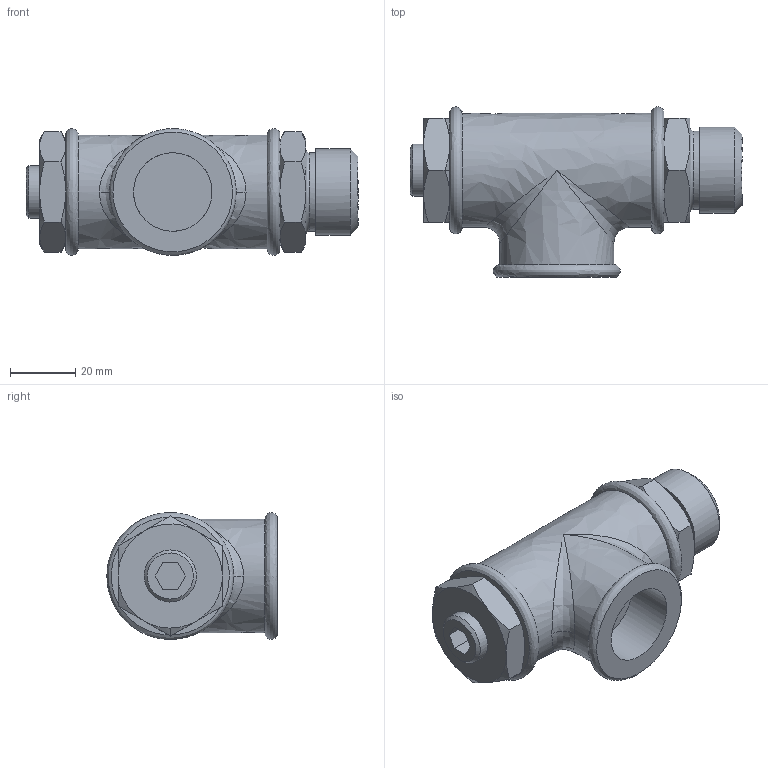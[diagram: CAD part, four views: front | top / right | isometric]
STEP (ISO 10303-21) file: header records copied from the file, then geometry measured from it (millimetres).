
FILE_DESCRIPTION((''),'2;1');
FILE_NAME('U:\Users\r.stiegele\12566400_EC330120.stp', '2013-10-11T15:08:02',('User'),('SDRC'),'I-DEAS Master Series 9','UNIX', 'Yes');
FILE_SCHEMA(('AUTOMOTIVE_DESIGN { 1 0 10303 214 1 1 1 1 }'));
Length unit declared in the file: millimetre
Products named in the file (1): 12566400(327299)
Bounding box: 102 x 52.28 x 38.95 mm (x, y, z)
Surface area: 17905.9 mm2 (no closed solid volume)
Topology: 0 solids, 1 shells, 71 faces, 153 edges, 87 vertices
Faces by surface type: bspline 71
Entity records: 2525 total; most frequent: CARTESIAN_POINT 1641, ORIENTED_EDGE 298, EDGE_CURVE 149, VERTEX_POINT 87, EDGE_LOOP 79, FACE_OUTER_BOUND 71, ADVANCED_FACE 71, B_SPLINE_CURVE_WITH_KNOTS 36
